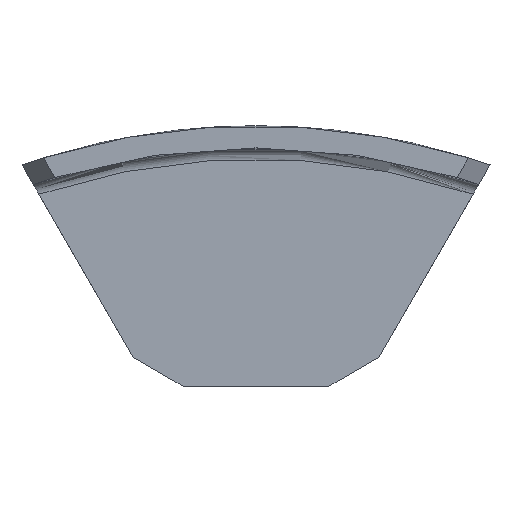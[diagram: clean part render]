
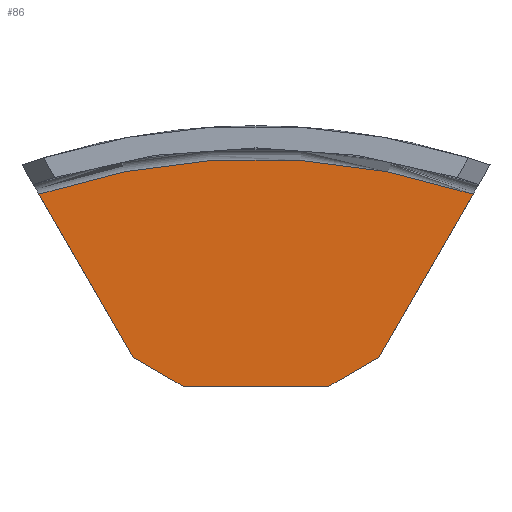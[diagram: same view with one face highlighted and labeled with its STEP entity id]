
A CAD part, left-side view. The second image highlights one B-rep face of the part: STEP entity #86.
In plain terms, the highlighted planar face has unit normal (-1, 0, 0).
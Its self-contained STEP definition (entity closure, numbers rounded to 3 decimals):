
#34=AXIS2_PLACEMENT_3D('Plane Axis2P3D',#31,#32,#33) ;
#75=AXIS2_PLACEMENT_3D('Circle Axis2P3D',#73,#74,$) ;
#31=CARTESIAN_POINT('Axis2P3D Location',(15.,0.,0.)) ;
#36=CARTESIAN_POINT('Line Origine',(15.,15.329,51.462)) ;
#40=CARTESIAN_POINT('Vertex',(15.,11.077,44.098)) ;
#42=CARTESIAN_POINT('Vertex',(15.,19.581,58.827)) ;
#45=CARTESIAN_POINT('Line Origine',(15.,8.827,42.799)) ;
#49=CARTESIAN_POINT('Vertex',(15.,6.577,41.5)) ;
#52=CARTESIAN_POINT('Line Origine',(15.,0.,41.5)) ;
#56=CARTESIAN_POINT('Vertex',(15.,-6.577,41.5)) ;
#59=CARTESIAN_POINT('Line Origine',(15.,-8.827,42.799)) ;
#63=CARTESIAN_POINT('Vertex',(15.,-11.077,44.098)) ;
#66=CARTESIAN_POINT('Line Origine',(15.,-15.329,51.462)) ;
#70=CARTESIAN_POINT('Vertex',(15.,-19.581,58.827)) ;
#73=CARTESIAN_POINT('Axis2P3D Location',(15.,0.,0.)) ;
#32=DIRECTION('Axis2P3D Direction',(-1.,0.,0.)) ;
#33=DIRECTION('Axis2P3D XDirection',(0.,-1.,0.)) ;
#37=DIRECTION('Vector Direction',(0.,0.5,0.866)) ;
#46=DIRECTION('Vector Direction',(0.,0.866,0.5)) ;
#53=DIRECTION('Vector Direction',(0.,1.,0.)) ;
#60=DIRECTION('Vector Direction',(0.,-0.866,0.5)) ;
#67=DIRECTION('Vector Direction',(0.,0.5,-0.866)) ;
#74=DIRECTION('Axis2P3D Direction',(-1.,0.,0.)) ;
#38=VECTOR('Line Direction',#37,1.) ;
#47=VECTOR('Line Direction',#46,1.) ;
#54=VECTOR('Line Direction',#53,1.) ;
#61=VECTOR('Line Direction',#60,1.) ;
#68=VECTOR('Line Direction',#67,1.) ;
#79=ORIENTED_EDGE('',*,*,#44,.F.) ;
#80=ORIENTED_EDGE('',*,*,#51,.F.) ;
#81=ORIENTED_EDGE('',*,*,#58,.F.) ;
#82=ORIENTED_EDGE('',*,*,#65,.F.) ;
#83=ORIENTED_EDGE('',*,*,#72,.F.) ;
#84=ORIENTED_EDGE('',*,*,#77,.F.) ;
#86=ADVANCED_FACE('Corps principal',(#85),#35,.T.) ;
#76=CIRCLE('generated circle',#75,62.) ;
#44=EDGE_CURVE('',#41,#43,#39,.T.) ;
#51=EDGE_CURVE('',#50,#41,#48,.T.) ;
#58=EDGE_CURVE('',#57,#50,#55,.T.) ;
#65=EDGE_CURVE('',#64,#57,#62,.F.) ;
#72=EDGE_CURVE('',#71,#64,#69,.T.) ;
#77=EDGE_CURVE('',#43,#71,#76,.F.) ;
#78=EDGE_LOOP('',(#79,#80,#81,#82,#83,#84)) ;
#85=FACE_OUTER_BOUND('',#78,.T.) ;
#39=LINE('Line',#36,#38) ;
#48=LINE('Line',#45,#47) ;
#55=LINE('Line',#52,#54) ;
#62=LINE('Line',#59,#61) ;
#69=LINE('Line',#66,#68) ;
#35=PLANE('',#34) ;
#41=VERTEX_POINT('',#40) ;
#43=VERTEX_POINT('',#42) ;
#50=VERTEX_POINT('',#49) ;
#57=VERTEX_POINT('',#56) ;
#64=VERTEX_POINT('',#63) ;
#71=VERTEX_POINT('',#70) ;
